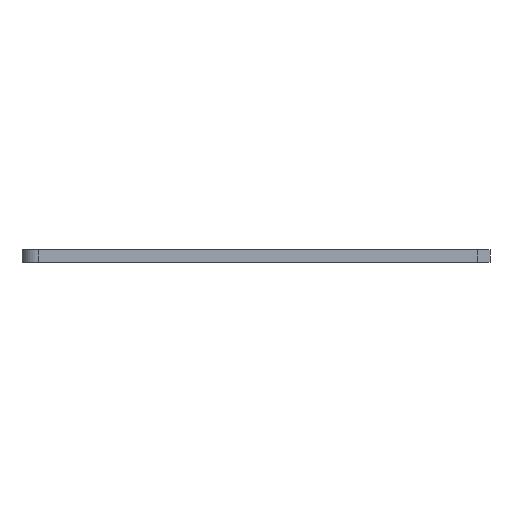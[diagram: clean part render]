
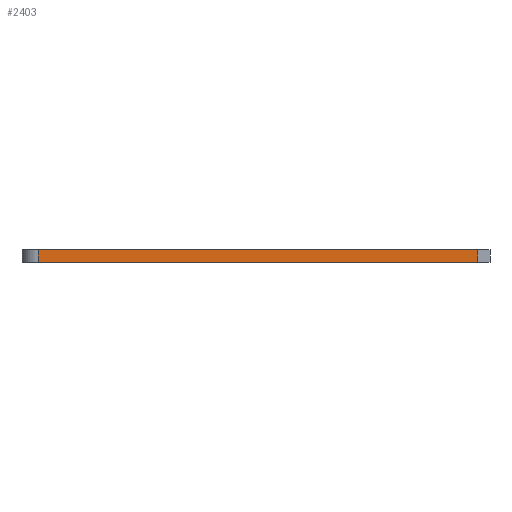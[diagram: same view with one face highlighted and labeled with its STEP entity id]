
A CAD part, left-side view. The second image highlights one B-rep face of the part: STEP entity #2403.
In plain terms, the highlighted planar face has unit normal (-1, 0, 0).
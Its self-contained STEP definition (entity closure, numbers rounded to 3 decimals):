
#32 = PLANE('',#33);
#33 = AXIS2_PLACEMENT_3D('',#34,#35,#36);
#34 = CARTESIAN_POINT('',(0.,6.,6.));
#35 = DIRECTION('',(0.,0.,1.));
#36 = DIRECTION('',(1.,0.,0.));
#57 = VERTEX_POINT('',#58);
#58 = CARTESIAN_POINT('',(0.,225.,6.));
#73 = CYLINDRICAL_SURFACE('',#74,8.);
#74 = AXIS2_PLACEMENT_3D('',#75,#76,#77);
#75 = CARTESIAN_POINT('',(8.,225.,0.));
#76 = DIRECTION('',(0.,0.,1.));
#77 = DIRECTION('',(0.,1.,0.));
#85 = EDGE_CURVE('',#86,#57,#88,.T.);
#86 = VERTEX_POINT('',#87);
#87 = CARTESIAN_POINT('',(0.,6.,6.));
#88 = SURFACE_CURVE('',#89,(#93,#100),.PCURVE_S1.);
#89 = LINE('',#90,#91);
#90 = CARTESIAN_POINT('',(0.,6.,6.));
#91 = VECTOR('',#92,1.);
#92 = DIRECTION('',(0.,1.,0.));
#93 = PCURVE('',#32,#94);
#94 = DEFINITIONAL_REPRESENTATION('',(#95),#99);
#95 = LINE('',#96,#97);
#96 = CARTESIAN_POINT('',(0.,0.));
#97 = VECTOR('',#98,1.);
#98 = DIRECTION('',(0.,1.));
#99 = ( GEOMETRIC_REPRESENTATION_CONTEXT(2) 
PARAMETRIC_REPRESENTATION_CONTEXT() REPRESENTATION_CONTEXT('2D SPACE',''
  ) );
#100 = PCURVE('',#101,#106);
#101 = PLANE('',#102);
#102 = AXIS2_PLACEMENT_3D('',#103,#104,#105);
#103 = CARTESIAN_POINT('',(0.,6.,0.));
#104 = DIRECTION('',(1.,0.,0.));
#105 = DIRECTION('',(0.,0.,1.));
#106 = DEFINITIONAL_REPRESENTATION('',(#107),#111);
#107 = LINE('',#108,#109);
#108 = CARTESIAN_POINT('',(6.,0.));
#109 = VECTOR('',#110,1.);
#110 = DIRECTION('',(0.,-1.));
#111 = ( GEOMETRIC_REPRESENTATION_CONTEXT(2) 
PARAMETRIC_REPRESENTATION_CONTEXT() REPRESENTATION_CONTEXT('2D SPACE',''
  ) );
#129 = PLANE('',#130);
#130 = AXIS2_PLACEMENT_3D('',#131,#132,#133);
#131 = CARTESIAN_POINT('',(0.,6.,0.));
#132 = DIRECTION('',(0.,1.,0.));
#133 = DIRECTION('',(0.,0.,1.));
#2254 = PLANE('',#2255);
#2255 = AXIS2_PLACEMENT_3D('',#2256,#2257,#2258);
#2256 = CARTESIAN_POINT('',(0.,6.,0.));
#2257 = DIRECTION('',(0.,0.,1.));
#2258 = DIRECTION('',(1.,0.,0.));
#2311 = VERTEX_POINT('',#2312);
#2312 = CARTESIAN_POINT('',(0.,225.,0.));
#2334 = EDGE_CURVE('',#2311,#57,#2335,.T.);
#2335 = SURFACE_CURVE('',#2336,(#2340,#2347),.PCURVE_S1.);
#2336 = LINE('',#2337,#2338);
#2337 = CARTESIAN_POINT('',(0.,225.,0.));
#2338 = VECTOR('',#2339,1.);
#2339 = DIRECTION('',(0.,0.,1.));
#2340 = PCURVE('',#73,#2341);
#2341 = DEFINITIONAL_REPRESENTATION('',(#2342),#2346);
#2342 = LINE('',#2343,#2344);
#2343 = CARTESIAN_POINT('',(1.571,0.));
#2344 = VECTOR('',#2345,1.);
#2345 = DIRECTION('',(0.,1.));
#2346 = ( GEOMETRIC_REPRESENTATION_CONTEXT(2) 
PARAMETRIC_REPRESENTATION_CONTEXT() REPRESENTATION_CONTEXT('2D SPACE',''
  ) );
#2347 = PCURVE('',#101,#2348);
#2348 = DEFINITIONAL_REPRESENTATION('',(#2349),#2353);
#2349 = LINE('',#2350,#2351);
#2350 = CARTESIAN_POINT('',(0.,-219.));
#2351 = VECTOR('',#2352,1.);
#2352 = DIRECTION('',(1.,0.));
#2353 = ( GEOMETRIC_REPRESENTATION_CONTEXT(2) 
PARAMETRIC_REPRESENTATION_CONTEXT() REPRESENTATION_CONTEXT('2D SPACE',''
  ) );
#2403 = ADVANCED_FACE('',(#2404),#101,.F.);
#2404 = FACE_BOUND('',#2405,.F.);
#2405 = EDGE_LOOP('',(#2406,#2407,#2430,#2451));
#2406 = ORIENTED_EDGE('',*,*,#85,.F.);
#2407 = ORIENTED_EDGE('',*,*,#2408,.F.);
#2408 = EDGE_CURVE('',#2409,#86,#2411,.T.);
#2409 = VERTEX_POINT('',#2410);
#2410 = CARTESIAN_POINT('',(0.,6.,0.));
#2411 = SURFACE_CURVE('',#2412,(#2416,#2423),.PCURVE_S1.);
#2412 = LINE('',#2413,#2414);
#2413 = CARTESIAN_POINT('',(0.,6.,0.));
#2414 = VECTOR('',#2415,1.);
#2415 = DIRECTION('',(0.,0.,1.));
#2416 = PCURVE('',#101,#2417);
#2417 = DEFINITIONAL_REPRESENTATION('',(#2418),#2422);
#2418 = LINE('',#2419,#2420);
#2419 = CARTESIAN_POINT('',(0.,0.));
#2420 = VECTOR('',#2421,1.);
#2421 = DIRECTION('',(1.,0.));
#2422 = ( GEOMETRIC_REPRESENTATION_CONTEXT(2) 
PARAMETRIC_REPRESENTATION_CONTEXT() REPRESENTATION_CONTEXT('2D SPACE',''
  ) );
#2423 = PCURVE('',#129,#2424);
#2424 = DEFINITIONAL_REPRESENTATION('',(#2425),#2429);
#2425 = LINE('',#2426,#2427);
#2426 = CARTESIAN_POINT('',(0.,0.));
#2427 = VECTOR('',#2428,1.);
#2428 = DIRECTION('',(1.,0.));
#2429 = ( GEOMETRIC_REPRESENTATION_CONTEXT(2) 
PARAMETRIC_REPRESENTATION_CONTEXT() REPRESENTATION_CONTEXT('2D SPACE',''
  ) );
#2430 = ORIENTED_EDGE('',*,*,#2431,.T.);
#2431 = EDGE_CURVE('',#2409,#2311,#2432,.T.);
#2432 = SURFACE_CURVE('',#2433,(#2437,#2444),.PCURVE_S1.);
#2433 = LINE('',#2434,#2435);
#2434 = CARTESIAN_POINT('',(0.,6.,0.));
#2435 = VECTOR('',#2436,1.);
#2436 = DIRECTION('',(0.,1.,0.));
#2437 = PCURVE('',#101,#2438);
#2438 = DEFINITIONAL_REPRESENTATION('',(#2439),#2443);
#2439 = LINE('',#2440,#2441);
#2440 = CARTESIAN_POINT('',(0.,0.));
#2441 = VECTOR('',#2442,1.);
#2442 = DIRECTION('',(0.,-1.));
#2443 = ( GEOMETRIC_REPRESENTATION_CONTEXT(2) 
PARAMETRIC_REPRESENTATION_CONTEXT() REPRESENTATION_CONTEXT('2D SPACE',''
  ) );
#2444 = PCURVE('',#2254,#2445);
#2445 = DEFINITIONAL_REPRESENTATION('',(#2446),#2450);
#2446 = LINE('',#2447,#2448);
#2447 = CARTESIAN_POINT('',(0.,0.));
#2448 = VECTOR('',#2449,1.);
#2449 = DIRECTION('',(0.,1.));
#2450 = ( GEOMETRIC_REPRESENTATION_CONTEXT(2) 
PARAMETRIC_REPRESENTATION_CONTEXT() REPRESENTATION_CONTEXT('2D SPACE',''
  ) );
#2451 = ORIENTED_EDGE('',*,*,#2334,.T.);
